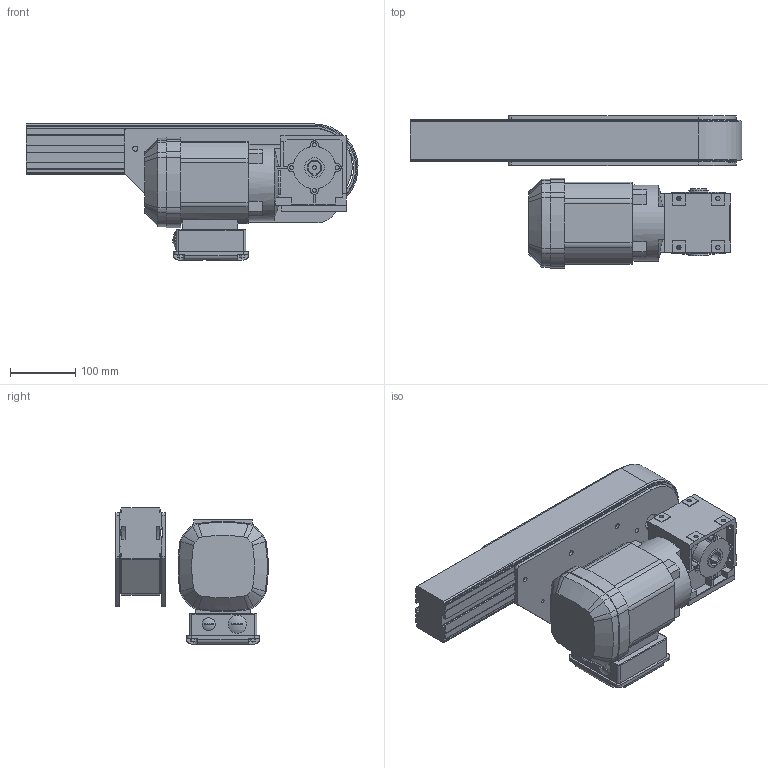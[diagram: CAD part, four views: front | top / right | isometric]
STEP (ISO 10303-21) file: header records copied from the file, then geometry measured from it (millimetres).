
FILE_DESCRIPTION((''),'2;1');
FILE_NAME('C:\Vault Klient\Projekt\Koncept konstruktion\Serie 620 Drivenhet\620-360H.stp','2009-12-01T07:22:43',('Mathias'),(''),'Autodesk Inventor 2010','Autodesk Inventor 2010','');
FILE_SCHEMA(('CONFIG_CONTROL_DESIGN'));
Length unit declared in the file: millimetre
Products named in the file (1): 620-360H
Bounding box: 509.95 x 233.64 x 209 mm (x, y, z)
Volume: 6900151.5 mm3; surface area: 594393.3 mm2
Topology: 5 solids, 5 shells, 596 faces, 1669 edges, 1094 vertices
Faces by surface type: plane 373, cylinder 193, bspline 16, cone 12, sphere 2
Full cylindrical faces by diameter (mm): 5 x4, 6 x9, 6.6 x8, 8 x10, 20 x1, 25 x1, 26 x2, 28 x1, 30 x2, 117 x1
Entity records: 19986 total; most frequent: CARTESIAN_POINT 3804, ORIENTED_EDGE 3236, DIRECTION 3177, EDGE_CURVE 1618, VECTOR 1129, LINE 1129, VERTEX_POINT 1087, AXIS2_PLACEMENT_3D 1024
